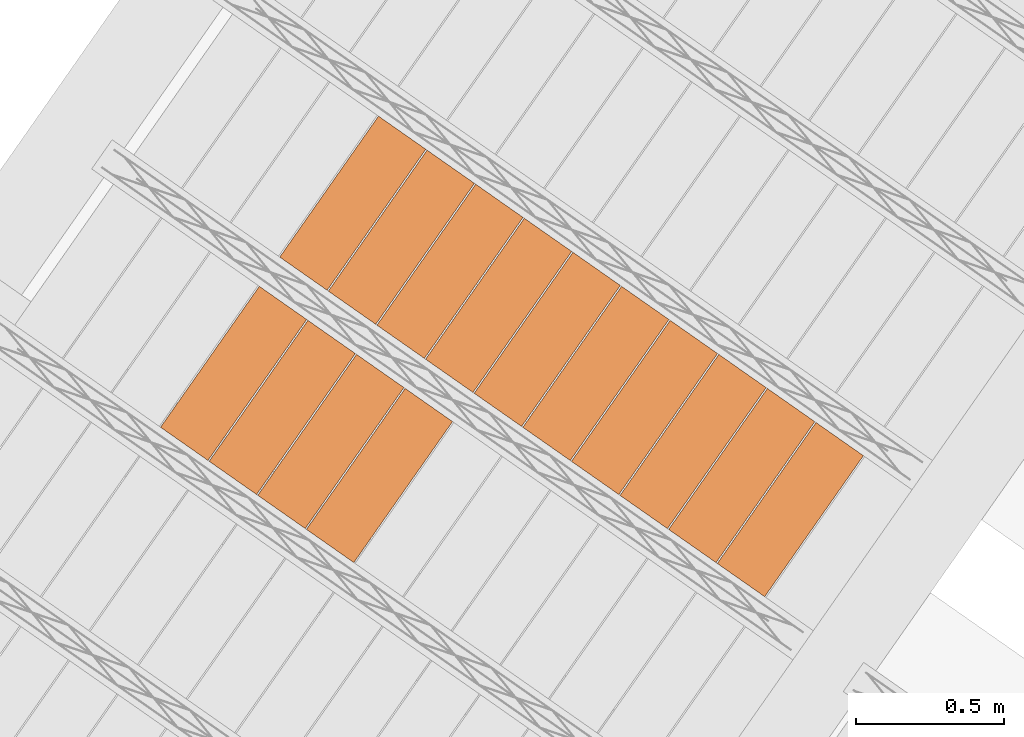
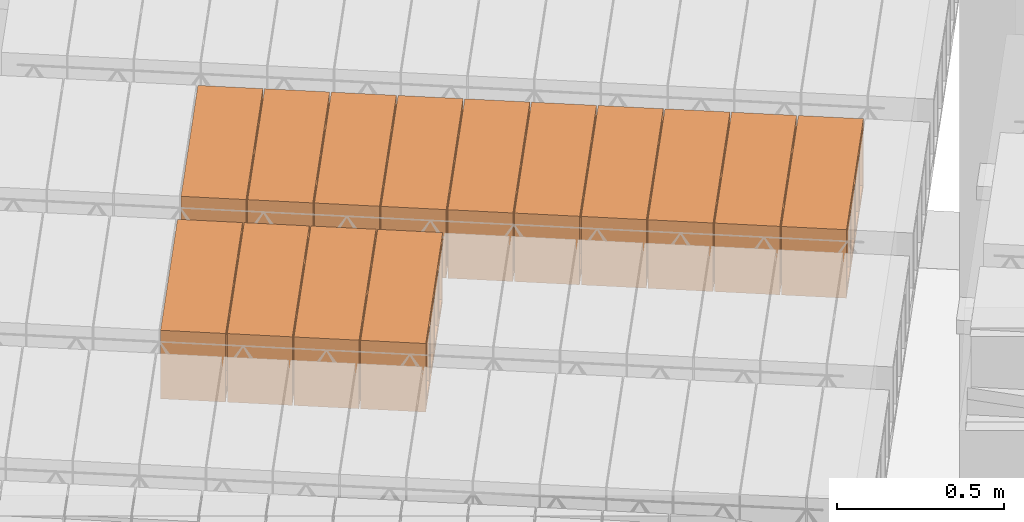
# One storey, part 68 of 80: 14 proxies.
"""IFC2X3 building model written with IfcOpenShell, lengths in metres."""

from ifc_helpers import new_model, entity, si_unit, converted_unit, derived_unit, direction, frame, origin, place, context, subcontext, project, spatial, polyline, outline, extrude, type_object, element, save


model = new_model("IFC2X3")

# Units and contexts
model_context = context("Model", 3, precision=1e-05, world=origin(), true_north=direction((6.123031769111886e-17, 1.0)))
body_context = subcontext(model_context, "Body", "Model", "MODEL_VIEW")
ifc_project = project(units=[si_unit("LENGTHUNIT", "METRE"), si_unit("AREAUNIT", "SQUARE_METRE"), si_unit("VOLUMEUNIT", "CUBIC_METRE"), converted_unit("PLANEANGLEUNIT", "DEGREE", entity("IfcPlaneAngleMeasure", 0.017453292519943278), si_unit("PLANEANGLEUNIT", "RADIAN"), dimensions=[0, 0, 0, 0, 0, 0, 0]), si_unit("MASSUNIT", "GRAM", prefix="KILO"), derived_unit("MASSDENSITYUNIT", [(si_unit("MASSUNIT", "GRAM", prefix="KILO"), 1), (si_unit("LENGTHUNIT", "METRE"), -3)]), derived_unit("IONCONCENTRATIONUNIT", [(si_unit("MASSUNIT", "GRAM", prefix="KILO"), 1), (si_unit("LENGTHUNIT", "METRE"), -3)]), derived_unit("MOMENTOFINERTIAUNIT", [(si_unit("LENGTHUNIT", "METRE"), 4)]), si_unit("TIMEUNIT", "SECOND"), si_unit("FREQUENCYUNIT", "HERTZ"), si_unit("THERMODYNAMICTEMPERATUREUNIT", "DEGREE_CELSIUS"), derived_unit("THERMALTRANSMITTANCEUNIT", [(si_unit("MASSUNIT", "GRAM", prefix="KILO"), 1), (si_unit("THERMODYNAMICTEMPERATUREUNIT", "KELVIN"), -1), (si_unit("TIMEUNIT", "SECOND"), -3)]), derived_unit("THERMALCONDUCTANCEUNIT", [(si_unit("MASSUNIT", "GRAM", prefix="KILO"), 1), (si_unit("THERMODYNAMICTEMPERATUREUNIT", "KELVIN"), -1), (si_unit("TIMEUNIT", "SECOND"), -3), (si_unit("LENGTHUNIT", "METRE"), 1)]), derived_unit("VOLUMETRICFLOWRATEUNIT", [(si_unit("LENGTHUNIT", "METRE", prefix="DECI"), 3), (si_unit("TIMEUNIT", "SECOND"), -1)]), derived_unit("MASSFLOWRATEUNIT", [(si_unit("MASSUNIT", "GRAM", prefix="KILO"), 1), (si_unit("TIMEUNIT", "SECOND"), -1)]), derived_unit("ROTATIONALFREQUENCYUNIT", [(si_unit("TIMEUNIT", "SECOND"), -1)]), si_unit("ELECTRICCURRENTUNIT", "AMPERE"), si_unit("ELECTRICVOLTAGEUNIT", "VOLT"), si_unit("POWERUNIT", "WATT"), si_unit("FORCEUNIT", "NEWTON", prefix="KILO"), si_unit("ILLUMINANCEUNIT", "LUX"), si_unit("LUMINOUSFLUXUNIT", "LUMEN"), si_unit("LUMINOUSINTENSITYUNIT", "CANDELA"), si_unit("ENERGYUNIT", "JOULE"), derived_unit("USERDEFINED", [(si_unit("MASSUNIT", "GRAM", prefix="KILO"), -1), (si_unit("LENGTHUNIT", "METRE"), -2), (si_unit("TIMEUNIT", "SECOND"), 3), (si_unit("LUMINOUSFLUXUNIT", "LUMEN"), 1)]), derived_unit("USERDEFINED", [(si_unit("MASSUNIT", "GRAM", prefix="KILO"), 1), (si_unit("TIMEUNIT", "SECOND"), -3), (si_unit("LENGTHUNIT", "METRE"), 3), (si_unit("ELECTRICCURRENTUNIT", "AMPERE"), -2)]), derived_unit("SOUNDPOWERUNIT", [(si_unit("MASSUNIT", "GRAM", prefix="KILO"), 1), (si_unit("TIMEUNIT", "SECOND"), -3), (si_unit("LENGTHUNIT", "METRE"), 2)]), derived_unit("SOUNDPRESSUREUNIT", [(si_unit("MASSUNIT", "GRAM", prefix="KILO"), 1), (si_unit("LENGTHUNIT", "METRE"), -1), (si_unit("TIMEUNIT", "SECOND"), -2)]), derived_unit("LINEARVELOCITYUNIT", [(si_unit("LENGTHUNIT", "METRE"), 1), (si_unit("TIMEUNIT", "SECOND"), -1)]), si_unit("PRESSUREUNIT", "PASCAL"), derived_unit("USERDEFINED", [(si_unit("MASSUNIT", "GRAM", prefix="KILO"), 1), (si_unit("LENGTHUNIT", "METRE"), -2), (si_unit("TIMEUNIT", "SECOND"), -2)]), derived_unit("LINEARFORCEUNIT", [(si_unit("MASSUNIT", "GRAM", prefix="KILO"), 1), (si_unit("TIMEUNIT", "SECOND"), -2)]), derived_unit("PLANARFORCEUNIT", [(si_unit("MASSUNIT", "GRAM", prefix="KILO"), 1), (si_unit("LENGTHUNIT", "METRE"), -1), (si_unit("TIMEUNIT", "SECOND"), -2)]), derived_unit("SPECIFICHEATCAPACITYUNIT", [(si_unit("THERMODYNAMICTEMPERATUREUNIT", "KELVIN"), -1), (si_unit("LENGTHUNIT", "METRE"), 2), (si_unit("TIMEUNIT", "SECOND"), -2)]), derived_unit("HEATFLUXDENSITYUNIT", [(si_unit("MASSUNIT", "GRAM", prefix="KILO"), 1), (si_unit("TIMEUNIT", "SECOND"), -3)]), derived_unit("HEATINGVALUEUNIT", [(si_unit("LENGTHUNIT", "METRE"), 2), (si_unit("TIMEUNIT", "SECOND"), -2)]), derived_unit("VAPORPERMEABILITYUNIT", [(si_unit("LENGTHUNIT", "METRE"), -1), (si_unit("TIMEUNIT", "SECOND"), 1)]), derived_unit("DYNAMICVISCOSITYUNIT", [(si_unit("MASSUNIT", "GRAM", prefix="KILO"), 1), (si_unit("TIMEUNIT", "SECOND"), -1), (si_unit("LENGTHUNIT", "METRE"), -1)]), derived_unit("THERMALEXPANSIONCOEFFICIENTUNIT", [(si_unit("THERMODYNAMICTEMPERATUREUNIT", "KELVIN"), -1)]), derived_unit("MODULUSOFELASTICITYUNIT", [(si_unit("MASSUNIT", "GRAM", prefix="KILO"), 1), (si_unit("LENGTHUNIT", "METRE"), -1), (si_unit("TIMEUNIT", "SECOND"), -2)]), derived_unit("ISOTHERMALMOISTURECAPACITYUNIT", [(si_unit("MASSUNIT", "GRAM", prefix="KILO"), -1), (si_unit("LENGTHUNIT", "METRE"), 3)]), derived_unit("MOISTUREDIFFUSIVITYUNIT", [(si_unit("TIMEUNIT", "SECOND"), -1), (si_unit("LENGTHUNIT", "METRE"), 2)]), derived_unit("MASSPERLENGTHUNIT", [(si_unit("MASSUNIT", "GRAM", prefix="KILO"), 1), (si_unit("LENGTHUNIT", "METRE"), -1)]), derived_unit("THERMALRESISTANCEUNIT", [(si_unit("MASSUNIT", "GRAM", prefix="KILO"), -1), (si_unit("TIMEUNIT", "SECOND"), 3), (si_unit("THERMODYNAMICTEMPERATUREUNIT", "KELVIN"), 1)]), derived_unit("ACCELERATIONUNIT", [(si_unit("LENGTHUNIT", "METRE"), 1), (si_unit("TIMEUNIT", "SECOND"), -2)]), derived_unit("ANGULARVELOCITYUNIT", [(si_unit("TIMEUNIT", "SECOND"), -1), (si_unit("PLANEANGLEUNIT", "RADIAN"), 1)]), derived_unit("LINEARSTIFFNESSUNIT", [(si_unit("MASSUNIT", "GRAM", prefix="KILO"), 1), (si_unit("TIMEUNIT", "SECOND"), -2)]), derived_unit("WARPINGCONSTANTUNIT", [(si_unit("LENGTHUNIT", "METRE"), 6)]), derived_unit("LINEARMOMENTUNIT", [(si_unit("MASSUNIT", "GRAM", prefix="KILO"), 1), (si_unit("LENGTHUNIT", "METRE"), 1), (si_unit("TIMEUNIT", "SECOND"), -2)]), derived_unit("TORQUEUNIT", [(si_unit("MASSUNIT", "GRAM", prefix="KILO"), 1), (si_unit("LENGTHUNIT", "METRE"), 2), (si_unit("TIMEUNIT", "SECOND"), -2)])], contexts=[model_context])

# Site, building, storey
site_placement = place(None, origin())
site = spatial("IfcSite", under=ifc_project, at=site_placement, Name="Default", CompositionType="ELEMENT")
building_placement = place(site_placement, origin())
building = spatial("IfcBuilding", under=site, at=building_placement, CompositionType="ELEMENT")
storey_placement = place(building_placement, frame((0.0, 0.0, 95.94)))
storey = spatial("IfcBuildingStorey", under=building, at=storey_placement, Name="PB", CompositionType="ELEMENT", Elevation=95.94)

# Proxies
building_element_proxy_type_1 = type_object("IfcBuildingElementProxyType", Name="Bovedilla 8-8 (Paño 2)", PredefinedType="USERDEFINED")
proxy_1_placement = place(storey_placement, origin())
element("IfcBuildingElementProxy", 1, at=proxy_1_placement, inside=storey, type_object=building_element_proxy_type_1, Name="Bovedilla 8-8 (Paño 2)", ObjectType="FORM", context=body_context, shape_type="SweptSolid", body=[
    extrude(outline(polyline([(-0.28999999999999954, -0.12500000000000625), (0.28999999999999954, -0.12500000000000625), (0.28999999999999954, 0.12500000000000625), (-0.28999999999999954, 0.12500000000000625), (-0.28999999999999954, -0.12500000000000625)]), holes=[polyline([(0.2699999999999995, -0.10499999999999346), (0.15500000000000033, -0.10499999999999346), (0.15500000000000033, 0.10499999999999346), (0.2699999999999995, 0.10499999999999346), (0.2699999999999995, 0.042499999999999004), (0.2699999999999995, -0.10499999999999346)]), polyline([(0.009999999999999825, -0.10499999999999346), (0.009999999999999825, 0.10499999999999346), (0.1350000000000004, 0.10499999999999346), (0.1350000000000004, -0.10499999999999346), (0.009999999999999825, -0.10499999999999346)]), polyline([(-0.1350000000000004, 0.10499999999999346), (-0.009999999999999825, 0.10499999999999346), (-0.009999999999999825, -0.10499999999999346), (-0.1350000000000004, -0.10499999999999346), (-0.1350000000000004, 0.10499999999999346)]), polyline([(-0.2699999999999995, -0.10499999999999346), (-0.2699999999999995, 0.042499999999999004), (-0.2699999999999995, 0.10499999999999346), (-0.15500000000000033, 0.10499999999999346), (-0.15500000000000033, -0.10499999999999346), (-0.2699999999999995, -0.10499999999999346)])]), frame((2.887538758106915, 6.279735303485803, 2.945000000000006), z_axis=(0.8191520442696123, -0.5735764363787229, 0.0), x_axis=(-0.5735764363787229, -0.8191520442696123, 0.0)), (0.0, 0.0, 1.0), 0.19499999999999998),
])
building_element_proxy_type_2 = type_object("IfcBuildingElementProxyType", Name="Bovedilla 8-9 (Paño 2)", PredefinedType="USERDEFINED")
proxy_2_placement = place(storey_placement, origin())
element("IfcBuildingElementProxy", 2, at=proxy_2_placement, inside=storey, type_object=building_element_proxy_type_2, Name="Bovedilla 8-9 (Paño 2)", ObjectType="FORM", context=body_context, shape_type="SweptSolid", body=[
    extrude(outline(polyline([(-0.28999999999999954, -0.12500000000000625), (0.28999999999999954, -0.12500000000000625), (0.28999999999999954, 0.12500000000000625), (-0.28999999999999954, 0.12500000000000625), (-0.28999999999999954, -0.12500000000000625)]), holes=[polyline([(0.2699999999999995, -0.10499999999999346), (0.15500000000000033, -0.10499999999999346), (0.15500000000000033, 0.10499999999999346), (0.2699999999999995, 0.10499999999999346), (0.2699999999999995, 0.042499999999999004), (0.2699999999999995, -0.10499999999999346)]), polyline([(0.009999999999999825, -0.10499999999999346), (0.009999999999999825, 0.10499999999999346), (0.1350000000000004, 0.10499999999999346), (0.1350000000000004, -0.10499999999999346), (0.009999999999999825, -0.10499999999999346)]), polyline([(-0.1350000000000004, 0.10499999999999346), (-0.009999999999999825, 0.10499999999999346), (-0.009999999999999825, -0.10499999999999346), (-0.1350000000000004, -0.10499999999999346), (-0.1350000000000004, 0.10499999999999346)]), polyline([(-0.2699999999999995, -0.10499999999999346), (-0.2699999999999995, 0.042499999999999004), (-0.2699999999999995, 0.10499999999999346), (-0.15500000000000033, 0.10499999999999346), (-0.15500000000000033, -0.10499999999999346), (-0.2699999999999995, -0.10499999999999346)])]), frame((2.7237083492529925, 6.394450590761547, 2.945000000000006), z_axis=(0.8191520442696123, -0.5735764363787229, 0.0), x_axis=(-0.5735764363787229, -0.8191520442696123, 0.0)), (0.0, 0.0, 1.0), 0.19499999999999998),
])
building_element_proxy_type_3 = type_object("IfcBuildingElementProxyType", Name="Bovedilla 8-10 (Paño 2)", PredefinedType="USERDEFINED")
proxy_3_placement = place(storey_placement, origin())
element("IfcBuildingElementProxy", 3, at=proxy_3_placement, inside=storey, type_object=building_element_proxy_type_3, Name="Bovedilla 8-10 (Paño 2)", ObjectType="FORM", context=body_context, shape_type="SweptSolid", body=[
    extrude(outline(polyline([(-0.28999999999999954, -0.12500000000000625), (0.28999999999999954, -0.12500000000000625), (0.28999999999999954, 0.12500000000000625), (-0.28999999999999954, 0.12500000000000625), (-0.28999999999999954, -0.12500000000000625)]), holes=[polyline([(0.2699999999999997, -0.10499999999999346), (0.15500000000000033, -0.10499999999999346), (0.15500000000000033, 0.10499999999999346), (0.2699999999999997, 0.10499999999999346), (0.2699999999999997, 0.042499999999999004), (0.2699999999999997, -0.10499999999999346)]), polyline([(0.009999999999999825, -0.10499999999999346), (0.009999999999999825, 0.10499999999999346), (0.1350000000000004, 0.10499999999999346), (0.1350000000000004, -0.10499999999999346), (0.009999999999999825, -0.10499999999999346)]), polyline([(-0.1350000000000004, 0.10499999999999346), (-0.009999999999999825, 0.10499999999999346), (-0.009999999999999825, -0.10499999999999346), (-0.1350000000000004, -0.10499999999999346), (-0.1350000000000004, 0.10499999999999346)]), polyline([(-0.2699999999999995, -0.10499999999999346), (-0.2699999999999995, 0.042499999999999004), (-0.2699999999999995, 0.10499999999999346), (-0.15500000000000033, 0.10499999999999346), (-0.15500000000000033, -0.10499999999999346), (-0.2699999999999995, -0.10499999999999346)])]), frame((2.559877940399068, 6.509165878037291, 2.945000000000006), z_axis=(0.8191520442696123, -0.5735764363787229, 0.0), x_axis=(-0.5735764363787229, -0.8191520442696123, 0.0)), (0.0, 0.0, 1.0), 0.19499999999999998),
])
building_element_proxy_type_4 = type_object("IfcBuildingElementProxyType", Name="Bovedilla 8-11 (Paño 2)", PredefinedType="USERDEFINED")
proxy_4_placement = place(storey_placement, origin())
element("IfcBuildingElementProxy", 4, at=proxy_4_placement, inside=storey, type_object=building_element_proxy_type_4, Name="Bovedilla 8-11 (Paño 2)", ObjectType="FORM", context=body_context, shape_type="SweptSolid", body=[
    extrude(outline(polyline([(-0.28999999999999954, -0.12500000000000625), (0.28999999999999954, -0.12500000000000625), (0.28999999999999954, 0.12500000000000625), (-0.28999999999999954, 0.12500000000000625), (-0.28999999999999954, -0.12500000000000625)]), holes=[polyline([(0.2699999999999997, -0.10499999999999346), (0.15500000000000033, -0.10499999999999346), (0.15500000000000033, 0.10499999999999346), (0.2699999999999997, 0.10499999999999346), (0.2699999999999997, 0.042499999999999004), (0.2699999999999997, -0.10499999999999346)]), polyline([(0.00999999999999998, -0.10499999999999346), (0.00999999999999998, 0.10499999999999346), (0.1350000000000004, 0.10499999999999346), (0.1350000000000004, -0.10499999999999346), (0.00999999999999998, -0.10499999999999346)]), polyline([(-0.1350000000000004, 0.10499999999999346), (-0.00999999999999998, 0.10499999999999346), (-0.00999999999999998, -0.10499999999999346), (-0.1350000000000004, -0.10499999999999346), (-0.1350000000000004, 0.10499999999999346)]), polyline([(-0.2699999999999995, -0.10499999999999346), (-0.2699999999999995, 0.042499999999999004), (-0.2699999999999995, 0.10499999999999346), (-0.15500000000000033, 0.10499999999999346), (-0.15500000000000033, -0.10499999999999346), (-0.2699999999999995, -0.10499999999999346)])]), frame((2.3960475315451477, 6.623881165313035, 2.945000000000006), z_axis=(0.8191520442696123, -0.5735764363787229, 0.0), x_axis=(-0.5735764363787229, -0.8191520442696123, 0.0)), (0.0, 0.0, 1.0), 0.19499999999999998),
])
building_element_proxy_type_5 = type_object("IfcBuildingElementProxyType", Name="Bovedilla 9-2 (Paño 2)", PredefinedType="USERDEFINED")
proxy_5_placement = place(storey_placement, origin())
element("IfcBuildingElementProxy", 5, at=proxy_5_placement, inside=storey, type_object=building_element_proxy_type_5, Name="Bovedilla 9-2 (Paño 2)", ObjectType="FORM", context=body_context, shape_type="SweptSolid", body=[
    extrude(outline(polyline([(-0.28999999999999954, -0.12500000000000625), (0.28999999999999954, -0.12500000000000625), (0.28999999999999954, 0.12500000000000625), (-0.28999999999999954, 0.12500000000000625), (-0.28999999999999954, -0.12500000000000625)]), holes=[polyline([(0.2699999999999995, -0.10499999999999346), (0.15500000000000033, -0.10499999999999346), (0.15500000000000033, 0.10499999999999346), (0.2699999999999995, 0.10499999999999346), (0.2699999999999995, 0.042499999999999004), (0.2699999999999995, -0.10499999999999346)]), polyline([(0.009999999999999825, -0.10499999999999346), (0.009999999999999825, 0.10499999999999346), (0.1350000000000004, 0.10499999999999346), (0.1350000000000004, -0.10499999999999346), (0.009999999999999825, -0.10499999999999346)]), polyline([(-0.1350000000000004, 0.10499999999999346), (-0.009999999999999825, 0.10499999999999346), (-0.009999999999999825, -0.10499999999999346), (-0.1350000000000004, -0.10499999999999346), (-0.1350000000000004, 0.10499999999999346)]), polyline([(-0.2699999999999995, -0.10499999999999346), (-0.2699999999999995, 0.042499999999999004), (-0.2699999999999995, 0.10499999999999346), (-0.15500000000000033, 0.10499999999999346), (-0.15500000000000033, -0.10499999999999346), (-0.2699999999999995, -0.10499999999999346)])]), frame((4.27202471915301, 6.164850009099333, 2.945000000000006), z_axis=(0.8191520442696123, -0.5735764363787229, 0.0), x_axis=(-0.5735764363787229, -0.8191520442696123, 0.0)), (0.0, 0.0, 1.0), 0.19499999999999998),
])
building_element_proxy_type_6 = type_object("IfcBuildingElementProxyType", Name="Bovedilla 9-3 (Paño 2)", PredefinedType="USERDEFINED")
proxy_6_placement = place(storey_placement, origin())
element("IfcBuildingElementProxy", 6, at=proxy_6_placement, inside=storey, type_object=building_element_proxy_type_6, Name="Bovedilla 9-3 (Paño 2)", ObjectType="FORM", context=body_context, shape_type="SweptSolid", body=[
    extrude(outline(polyline([(-0.28999999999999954, -0.12500000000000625), (0.28999999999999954, -0.12500000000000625), (0.28999999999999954, 0.12500000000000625), (-0.28999999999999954, 0.12500000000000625), (-0.28999999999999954, -0.12500000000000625)]), holes=[polyline([(0.2699999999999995, -0.10499999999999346), (0.15500000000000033, -0.10499999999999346), (0.15500000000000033, 0.10499999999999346), (0.2699999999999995, 0.10499999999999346), (0.2699999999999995, 0.042499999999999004), (0.2699999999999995, -0.10499999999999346)]), polyline([(0.009999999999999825, -0.10499999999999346), (0.009999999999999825, 0.10499999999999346), (0.1350000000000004, 0.10499999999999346), (0.1350000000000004, -0.10499999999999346), (0.009999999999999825, -0.10499999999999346)]), polyline([(-0.1350000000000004, 0.10499999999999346), (-0.009999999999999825, 0.10499999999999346), (-0.009999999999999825, -0.10499999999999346), (-0.1350000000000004, -0.10499999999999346), (-0.1350000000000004, 0.10499999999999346)]), polyline([(-0.2699999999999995, -0.10499999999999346), (-0.2699999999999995, 0.042499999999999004), (-0.2699999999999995, 0.10499999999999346), (-0.15500000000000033, 0.10499999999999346), (-0.15500000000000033, -0.10499999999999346), (-0.2699999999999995, -0.10499999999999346)])]), frame((4.108194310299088, 6.279565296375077, 2.945000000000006), z_axis=(0.8191520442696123, -0.5735764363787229, 0.0), x_axis=(-0.5735764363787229, -0.8191520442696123, 0.0)), (0.0, 0.0, 1.0), 0.19499999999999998),
])
building_element_proxy_type_7 = type_object("IfcBuildingElementProxyType", Name="Bovedilla 9-4 (Paño 2)", PredefinedType="USERDEFINED")
proxy_7_placement = place(storey_placement, origin())
element("IfcBuildingElementProxy", 7, at=proxy_7_placement, inside=storey, type_object=building_element_proxy_type_7, Name="Bovedilla 9-4 (Paño 2)", ObjectType="FORM", context=body_context, shape_type="SweptSolid", body=[
    extrude(outline(polyline([(-0.28999999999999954, -0.12500000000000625), (0.28999999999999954, -0.12500000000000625), (0.28999999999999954, 0.12500000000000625), (-0.28999999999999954, 0.12500000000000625), (-0.28999999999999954, -0.12500000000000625)]), holes=[polyline([(0.2699999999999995, -0.10499999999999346), (0.15500000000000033, -0.10499999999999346), (0.15500000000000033, 0.10499999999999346), (0.2699999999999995, 0.10499999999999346), (0.2699999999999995, 0.042499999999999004), (0.2699999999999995, -0.10499999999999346)]), polyline([(0.009999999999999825, -0.10499999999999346), (0.009999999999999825, 0.10499999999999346), (0.1350000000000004, 0.10499999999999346), (0.1350000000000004, -0.10499999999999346), (0.009999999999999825, -0.10499999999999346)]), polyline([(-0.1350000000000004, 0.10499999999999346), (-0.009999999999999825, 0.10499999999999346), (-0.009999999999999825, -0.10499999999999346), (-0.1350000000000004, -0.10499999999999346), (-0.1350000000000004, 0.10499999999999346)]), polyline([(-0.2699999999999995, -0.10499999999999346), (-0.2699999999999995, 0.042499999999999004), (-0.2699999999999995, 0.10499999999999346), (-0.15500000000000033, 0.10499999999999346), (-0.15500000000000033, -0.10499999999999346), (-0.2699999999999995, -0.10499999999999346)])]), frame((3.9443639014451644, 6.394280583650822, 2.945000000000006), z_axis=(0.8191520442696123, -0.5735764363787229, 0.0), x_axis=(-0.5735764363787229, -0.8191520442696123, 0.0)), (0.0, 0.0, 1.0), 0.19499999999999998),
])
building_element_proxy_type_8 = type_object("IfcBuildingElementProxyType", Name="Bovedilla 9-5 (Paño 2)", PredefinedType="USERDEFINED")
proxy_8_placement = place(storey_placement, origin())
element("IfcBuildingElementProxy", 8, at=proxy_8_placement, inside=storey, type_object=building_element_proxy_type_8, Name="Bovedilla 9-5 (Paño 2)", ObjectType="FORM", context=body_context, shape_type="SweptSolid", body=[
    extrude(outline(polyline([(-0.28999999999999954, -0.12500000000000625), (0.28999999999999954, -0.12500000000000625), (0.28999999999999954, 0.12500000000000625), (-0.28999999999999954, 0.12500000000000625), (-0.28999999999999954, -0.12500000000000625)]), holes=[polyline([(0.2699999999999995, -0.10499999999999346), (0.15500000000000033, -0.10499999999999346), (0.15500000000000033, 0.10499999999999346), (0.2699999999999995, 0.10499999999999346), (0.2699999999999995, 0.042499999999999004), (0.2699999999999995, -0.10499999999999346)]), polyline([(0.009999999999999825, -0.10499999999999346), (0.009999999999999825, 0.10499999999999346), (0.1350000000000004, 0.10499999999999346), (0.1350000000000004, -0.10499999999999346), (0.009999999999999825, -0.10499999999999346)]), polyline([(-0.1350000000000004, 0.10499999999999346), (-0.009999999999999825, 0.10499999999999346), (-0.009999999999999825, -0.10499999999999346), (-0.1350000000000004, -0.10499999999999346), (-0.1350000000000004, 0.10499999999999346)]), polyline([(-0.2699999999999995, -0.10499999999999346), (-0.2699999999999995, 0.042499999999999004), (-0.2699999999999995, 0.10499999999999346), (-0.15500000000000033, 0.10499999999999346), (-0.15500000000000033, -0.10499999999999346), (-0.2699999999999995, -0.10499999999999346)])]), frame((3.780533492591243, 6.508995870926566, 2.945000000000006), z_axis=(0.8191520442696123, -0.5735764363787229, 0.0), x_axis=(-0.5735764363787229, -0.8191520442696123, 0.0)), (0.0, 0.0, 1.0), 0.19499999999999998),
])
building_element_proxy_type_9 = type_object("IfcBuildingElementProxyType", Name="Bovedilla 9-6 (Paño 2)", PredefinedType="USERDEFINED")
proxy_9_placement = place(storey_placement, origin())
element("IfcBuildingElementProxy", 9, at=proxy_9_placement, inside=storey, type_object=building_element_proxy_type_9, Name="Bovedilla 9-6 (Paño 2)", ObjectType="FORM", context=body_context, shape_type="SweptSolid", body=[
    extrude(outline(polyline([(-0.29000000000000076, -0.12500000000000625), (0.2899999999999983, -0.12500000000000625), (0.2899999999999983, 0.12500000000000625), (-0.29000000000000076, 0.12500000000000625), (-0.29000000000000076, -0.12500000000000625)]), holes=[polyline([(0.2699999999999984, -0.10499999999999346), (0.15499999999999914, -0.10499999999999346), (0.15499999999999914, 0.10499999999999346), (0.2699999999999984, 0.10499999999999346), (0.2699999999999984, 0.042499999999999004), (0.2699999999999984, -0.10499999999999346)]), polyline([(0.009999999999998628, -0.10499999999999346), (0.009999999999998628, 0.10499999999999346), (0.1349999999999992, 0.10499999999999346), (0.1349999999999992, -0.10499999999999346), (0.009999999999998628, -0.10499999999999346)]), polyline([(-0.1350000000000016, 0.10499999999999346), (-0.010000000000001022, 0.10499999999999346), (-0.010000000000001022, -0.10499999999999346), (-0.1350000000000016, -0.10499999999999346), (-0.1350000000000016, 0.10499999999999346)]), polyline([(-0.2700000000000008, -0.10499999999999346), (-0.2700000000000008, 0.042499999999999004), (-0.2700000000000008, 0.10499999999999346), (-0.15500000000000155, 0.10499999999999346), (-0.15500000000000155, -0.10499999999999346), (-0.2700000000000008, -0.10499999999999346)])]), frame((3.616703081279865, 6.623711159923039, 2.945000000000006), z_axis=(0.8191520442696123, -0.5735764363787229, 0.0), x_axis=(-0.5735764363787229, -0.8191520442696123, 0.0)), (0.0, 0.0, 1.0), 0.19499999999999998),
])
building_element_proxy_type_10 = type_object("IfcBuildingElementProxyType", Name="Bovedilla 9-7 (Paño 2)", PredefinedType="USERDEFINED")
proxy_10_placement = place(storey_placement, origin())
element("IfcBuildingElementProxy", 10, at=proxy_10_placement, inside=storey, type_object=building_element_proxy_type_10, Name="Bovedilla 9-7 (Paño 2)", ObjectType="FORM", context=body_context, shape_type="SweptSolid", body=[
    extrude(outline(polyline([(-0.28999999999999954, -0.12500000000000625), (0.28999999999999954, -0.12500000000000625), (0.28999999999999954, 0.12500000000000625), (-0.28999999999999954, 0.12500000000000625), (-0.28999999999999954, -0.12500000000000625)]), holes=[polyline([(0.2699999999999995, -0.10499999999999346), (0.15500000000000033, -0.10499999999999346), (0.15500000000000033, 0.10499999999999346), (0.2699999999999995, 0.10499999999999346), (0.2699999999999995, 0.042499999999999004), (0.2699999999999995, -0.10499999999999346)]), polyline([(0.009999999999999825, -0.10499999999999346), (0.009999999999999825, 0.10499999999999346), (0.1350000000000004, 0.10499999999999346), (0.1350000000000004, -0.10499999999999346), (0.009999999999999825, -0.10499999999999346)]), polyline([(-0.1350000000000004, 0.10499999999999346), (-0.009999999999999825, 0.10499999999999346), (-0.009999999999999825, -0.10499999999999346), (-0.1350000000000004, -0.10499999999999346), (-0.1350000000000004, 0.10499999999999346)]), polyline([(-0.2699999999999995, -0.10499999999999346), (-0.2699999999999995, 0.042499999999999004), (-0.2699999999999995, 0.10499999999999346), (-0.15500000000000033, 0.10499999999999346), (-0.15500000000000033, -0.10499999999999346), (-0.2699999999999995, -0.10499999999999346)])]), frame((3.4528726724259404, 6.738426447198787, 2.945000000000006), z_axis=(0.8191520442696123, -0.5735764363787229, 0.0), x_axis=(-0.5735764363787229, -0.8191520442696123, 0.0)), (0.0, 0.0, 1.0), 0.19499999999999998),
])
building_element_proxy_type_11 = type_object("IfcBuildingElementProxyType", Name="Bovedilla 9-8 (Paño 2)", PredefinedType="USERDEFINED")
proxy_11_placement = place(storey_placement, origin())
element("IfcBuildingElementProxy", 11, at=proxy_11_placement, inside=storey, type_object=building_element_proxy_type_11, Name="Bovedilla 9-8 (Paño 2)", ObjectType="FORM", context=body_context, shape_type="SweptSolid", body=[
    extrude(outline(polyline([(-0.28999999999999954, -0.12500000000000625), (0.28999999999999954, -0.12500000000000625), (0.28999999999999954, 0.12500000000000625), (-0.28999999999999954, 0.12500000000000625), (-0.28999999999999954, -0.12500000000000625)]), holes=[polyline([(0.2699999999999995, -0.10499999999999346), (0.15500000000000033, -0.10499999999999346), (0.15500000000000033, 0.10499999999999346), (0.2699999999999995, 0.10499999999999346), (0.2699999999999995, 0.042499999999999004), (0.2699999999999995, -0.10499999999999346)]), polyline([(0.009999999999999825, -0.10499999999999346), (0.009999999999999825, 0.10499999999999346), (0.1350000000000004, 0.10499999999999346), (0.1350000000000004, -0.10499999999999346), (0.009999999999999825, -0.10499999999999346)]), polyline([(-0.1350000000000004, 0.10499999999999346), (-0.009999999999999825, 0.10499999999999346), (-0.009999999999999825, -0.10499999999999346), (-0.1350000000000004, -0.10499999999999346), (-0.1350000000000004, 0.10499999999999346)]), polyline([(-0.2699999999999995, -0.10499999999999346), (-0.2699999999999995, 0.042499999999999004), (-0.2699999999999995, 0.10499999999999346), (-0.15500000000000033, 0.10499999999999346), (-0.15500000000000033, -0.10499999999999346), (-0.2699999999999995, -0.10499999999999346)])]), frame((3.28904226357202, 6.853141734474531, 2.945000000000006), z_axis=(0.8191520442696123, -0.5735764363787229, 0.0), x_axis=(-0.5735764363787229, -0.8191520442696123, 0.0)), (0.0, 0.0, 1.0), 0.19499999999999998),
])
building_element_proxy_type_12 = type_object("IfcBuildingElementProxyType", Name="Bovedilla 9-9 (Paño 2)", PredefinedType="USERDEFINED")
proxy_12_placement = place(storey_placement, origin())
element("IfcBuildingElementProxy", 12, at=proxy_12_placement, inside=storey, type_object=building_element_proxy_type_12, Name="Bovedilla 9-9 (Paño 2)", ObjectType="FORM", context=body_context, shape_type="SweptSolid", body=[
    extrude(outline(polyline([(-0.28999999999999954, -0.12500000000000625), (0.28999999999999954, -0.12500000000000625), (0.28999999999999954, 0.12500000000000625), (-0.28999999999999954, 0.12500000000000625), (-0.28999999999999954, -0.12500000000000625)]), holes=[polyline([(0.2699999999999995, -0.10499999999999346), (0.15500000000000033, -0.10499999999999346), (0.15500000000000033, 0.10499999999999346), (0.2699999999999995, 0.10499999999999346), (0.2699999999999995, 0.042499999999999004), (0.2699999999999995, -0.10499999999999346)]), polyline([(0.009999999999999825, -0.10499999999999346), (0.009999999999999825, 0.10499999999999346), (0.1350000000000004, 0.10499999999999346), (0.1350000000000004, -0.10499999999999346), (0.009999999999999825, -0.10499999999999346)]), polyline([(-0.1350000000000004, 0.10499999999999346), (-0.009999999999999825, 0.10499999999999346), (-0.009999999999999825, -0.10499999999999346), (-0.1350000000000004, -0.10499999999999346), (-0.1350000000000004, 0.10499999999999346)]), polyline([(-0.2699999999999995, -0.10499999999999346), (-0.2699999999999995, 0.042499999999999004), (-0.2699999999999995, 0.10499999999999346), (-0.15500000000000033, 0.10499999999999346), (-0.15500000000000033, -0.10499999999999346), (-0.2699999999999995, -0.10499999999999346)])]), frame((3.1252118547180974, 6.967857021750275, 2.945000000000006), z_axis=(0.8191520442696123, -0.5735764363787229, 0.0), x_axis=(-0.5735764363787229, -0.8191520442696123, 0.0)), (0.0, 0.0, 1.0), 0.19499999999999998),
])
building_element_proxy_type_13 = type_object("IfcBuildingElementProxyType", Name="Bovedilla 9-10 (Paño 2)", PredefinedType="USERDEFINED")
proxy_13_placement = place(storey_placement, origin())
element("IfcBuildingElementProxy", 13, at=proxy_13_placement, inside=storey, type_object=building_element_proxy_type_13, Name="Bovedilla 9-10 (Paño 2)", ObjectType="FORM", context=body_context, shape_type="SweptSolid", body=[
    extrude(outline(polyline([(-0.28999999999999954, -0.12500000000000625), (0.28999999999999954, -0.12500000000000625), (0.28999999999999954, 0.12500000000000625), (-0.28999999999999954, 0.12500000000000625), (-0.28999999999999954, -0.12500000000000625)]), holes=[polyline([(0.2699999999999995, -0.10499999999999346), (0.15500000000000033, -0.10499999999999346), (0.15500000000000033, 0.10499999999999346), (0.2699999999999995, 0.10499999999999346), (0.2699999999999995, 0.042499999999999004), (0.2699999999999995, -0.10499999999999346)]), polyline([(0.009999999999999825, -0.10499999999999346), (0.009999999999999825, 0.10499999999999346), (0.1350000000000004, 0.10499999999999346), (0.1350000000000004, -0.10499999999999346), (0.009999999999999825, -0.10499999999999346)]), polyline([(-0.1350000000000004, 0.10499999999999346), (-0.009999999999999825, 0.10499999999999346), (-0.009999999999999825, -0.10499999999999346), (-0.1350000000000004, -0.10499999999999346), (-0.1350000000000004, 0.10499999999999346)]), polyline([(-0.2699999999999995, -0.10499999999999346), (-0.2699999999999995, 0.042499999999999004), (-0.2699999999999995, 0.10499999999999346), (-0.15500000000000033, 0.10499999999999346), (-0.15500000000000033, -0.10499999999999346), (-0.2699999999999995, -0.10499999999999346)])]), frame((2.961381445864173, 7.08257230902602, 2.945000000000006), z_axis=(0.8191520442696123, -0.5735764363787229, 0.0), x_axis=(-0.5735764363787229, -0.8191520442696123, 0.0)), (0.0, 0.0, 1.0), 0.19499999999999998),
])
building_element_proxy_type_14 = type_object("IfcBuildingElementProxyType", Name="Bovedilla 9-11 (Paño 2)", PredefinedType="USERDEFINED")
proxy_14_placement = place(storey_placement, origin())
element("IfcBuildingElementProxy", 14, at=proxy_14_placement, inside=storey, type_object=building_element_proxy_type_14, Name="Bovedilla 9-11 (Paño 2)", ObjectType="FORM", context=body_context, shape_type="SweptSolid", body=[
    extrude(outline(polyline([(-0.28999999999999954, -0.12500000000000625), (0.28999999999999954, -0.12500000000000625), (0.28999999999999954, 0.12500000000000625), (-0.28999999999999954, 0.12500000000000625), (-0.28999999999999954, -0.12500000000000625)]), holes=[polyline([(0.2699999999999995, -0.10499999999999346), (0.15500000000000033, -0.10499999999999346), (0.15500000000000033, 0.10499999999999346), (0.2699999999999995, 0.10499999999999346), (0.2699999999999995, 0.042499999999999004), (0.2699999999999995, -0.10499999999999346)]), polyline([(0.009999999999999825, -0.10499999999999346), (0.009999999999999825, 0.10499999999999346), (0.1350000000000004, 0.10499999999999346), (0.1350000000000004, -0.10499999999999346), (0.009999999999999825, -0.10499999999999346)]), polyline([(-0.1350000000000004, 0.10499999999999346), (-0.009999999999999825, 0.10499999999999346), (-0.009999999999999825, -0.10499999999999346), (-0.1350000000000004, -0.10499999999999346), (-0.1350000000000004, 0.10499999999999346)]), polyline([(-0.2699999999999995, -0.10499999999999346), (-0.2699999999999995, 0.042499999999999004), (-0.2699999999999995, 0.10499999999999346), (-0.15500000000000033, 0.10499999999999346), (-0.15500000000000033, -0.10499999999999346), (-0.2699999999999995, -0.10499999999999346)])]), frame((2.7975510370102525, 7.197287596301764, 2.945000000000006), z_axis=(0.8191520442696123, -0.5735764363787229, 0.0), x_axis=(-0.5735764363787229, -0.8191520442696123, 0.0)), (0.0, 0.0, 1.0), 0.19499999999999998),
])

save(model, "model.ifc")
